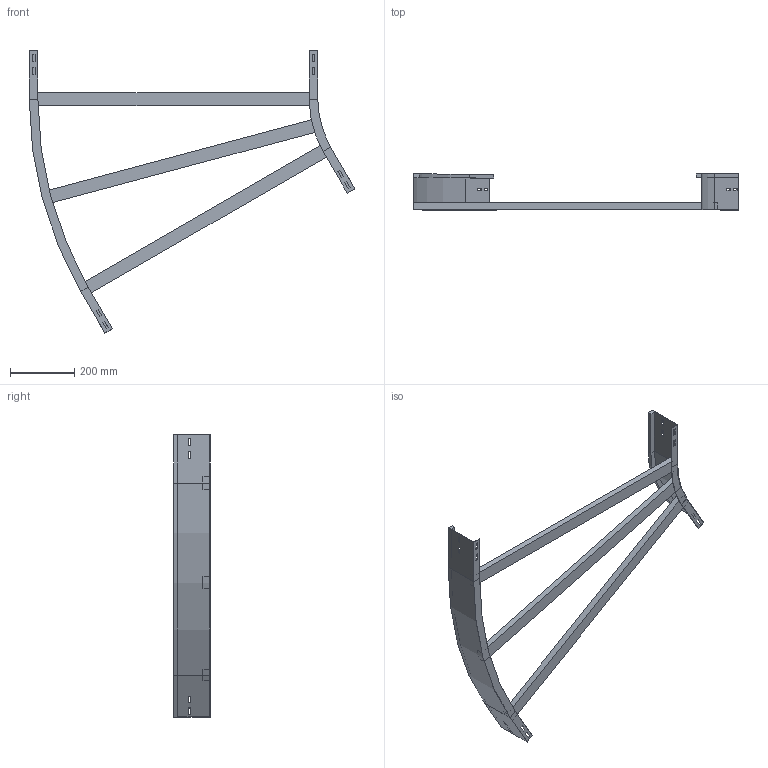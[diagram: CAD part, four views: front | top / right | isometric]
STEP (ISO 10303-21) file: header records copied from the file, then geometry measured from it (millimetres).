
FILE_DESCRIPTION (( 'STEP AP214' ), '1' );
FILE_NAME ('A2_12B3J900.step', '2025-02-21T15:09:16', ( '' ), ( '' ), 'SwSTEP 2.0', 'SolidWorks 2023', '' );
FILE_SCHEMA (( 'AUTOMOTIVE_DESIGN' ));
Length unit declared in the file: millimetre
Products named in the file (4): TRAVERSINO_900; A2_12B3J900; A2_LONGH.ESTERNO 30°_H112.5_R300+900; A2_LONGH.INTERNO 30°_H112.5_R300
Assembly tree (5 placements, depth 2):
  A2_12B3J900
    A2_LONGH.INTERNO 30°_H112.5_R300
    A2_LONGH.ESTERNO 30°_H112.5_R300+900
    TRAVERSINO_900  x3
Bounding box: 1015.19 x 112.5 x 879.9 mm (x, y, z)
Volume: 2819332.9 mm3; surface area: 759762.8 mm2
Topology: 5 solids, 5 shells, 134 faces, 340 edges, 216 vertices
Faces by surface type: plane 126, cylinder 8
Entity records: 3821 total; most frequent: CARTESIAN_POINT 646, ORIENTED_EDGE 632, DIRECTION 592, EDGE_CURVE 316, VECTOR 300, LINE 300, VERTEX_POINT 200, EDGE_LOOP 154
